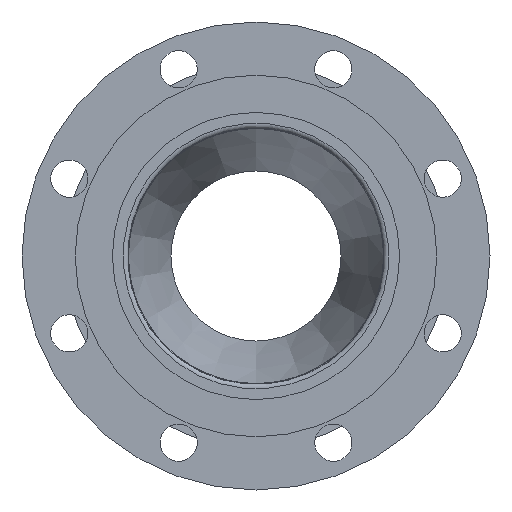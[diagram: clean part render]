
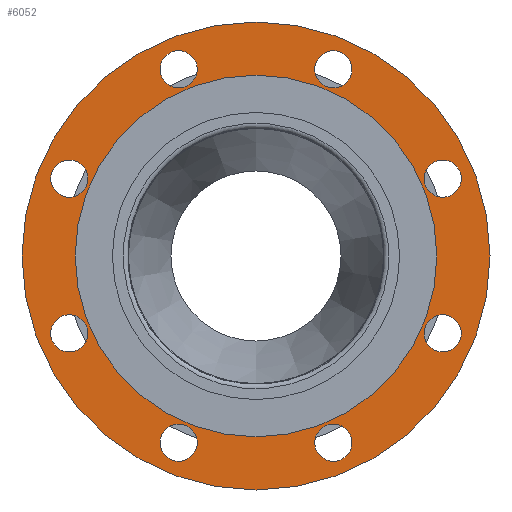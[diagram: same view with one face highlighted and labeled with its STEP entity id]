
A CAD part, front view. The second image highlights one B-rep face of the part: STEP entity #6052.
In plain terms, the highlighted planar face has unit normal (0, -1, 0) as drawn and (0, 1, 0) by its records, which use the part's own axes.
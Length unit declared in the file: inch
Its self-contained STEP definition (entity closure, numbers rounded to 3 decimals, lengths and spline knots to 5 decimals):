
#5713=CARTESIAN_POINT('',(-1.50839,0.6875,4.69779));
#5714=VERTEX_POINT('',#5713);
#5715=CARTESIAN_POINT('',(-1.81775,0.6875,4.38843));
#5716=DIRECTION('',(0.0,-1.0,0.0));
#5717=DIRECTION('',(0.707,0.0,0.707));
#5718=AXIS2_PLACEMENT_3D('',#5715,#5716,#5717);
#5719=CIRCLE('',#5718,0.4375);
#5720=EDGE_CURVE('',#5714,#5714,#5719,.T.);
#5741=CARTESIAN_POINT('',(-4.38843,0.6875,2.25525));
#5742=VERTEX_POINT('',#5741);
#5743=CARTESIAN_POINT('',(-4.38843,0.6875,1.81775));
#5744=DIRECTION('',(0.0,-1.0,0.0));
#5745=DIRECTION('',(0.0,0.0,1.0));
#5746=AXIS2_PLACEMENT_3D('',#5743,#5744,#5745);
#5747=CIRCLE('',#5746,0.4375);
#5748=EDGE_CURVE('',#5742,#5742,#5747,.T.);
#5769=CARTESIAN_POINT('',(-4.69779,0.6875,-1.50839));
#5770=VERTEX_POINT('',#5769);
#5771=CARTESIAN_POINT('',(-4.38843,0.6875,-1.81775));
#5772=DIRECTION('',(0.0,-1.0,0.0));
#5773=DIRECTION('',(-0.707,0.0,0.707));
#5774=AXIS2_PLACEMENT_3D('',#5771,#5772,#5773);
#5775=CIRCLE('',#5774,0.4375);
#5776=EDGE_CURVE('',#5770,#5770,#5775,.T.);
#5797=CARTESIAN_POINT('',(-2.25525,0.6875,-4.38843));
#5798=VERTEX_POINT('',#5797);
#5799=CARTESIAN_POINT('',(-1.81775,0.6875,-4.38843));
#5800=DIRECTION('',(0.0,-1.0,0.0));
#5801=DIRECTION('',(-1.0,0.0,0.0));
#5802=AXIS2_PLACEMENT_3D('',#5799,#5800,#5801);
#5803=CIRCLE('',#5802,0.4375);
#5804=EDGE_CURVE('',#5798,#5798,#5803,.T.);
#5825=CARTESIAN_POINT('',(1.50839,0.6875,-4.69779));
#5826=VERTEX_POINT('',#5825);
#5827=CARTESIAN_POINT('',(1.81775,0.6875,-4.38843));
#5828=DIRECTION('',(0.0,-1.0,0.0));
#5829=DIRECTION('',(-0.707,0.0,-0.707));
#5830=AXIS2_PLACEMENT_3D('',#5827,#5828,#5829);
#5831=CIRCLE('',#5830,0.4375);
#5832=EDGE_CURVE('',#5826,#5826,#5831,.T.);
#5853=CARTESIAN_POINT('',(4.38843,0.6875,-2.25525));
#5854=VERTEX_POINT('',#5853);
#5855=CARTESIAN_POINT('',(4.38843,0.6875,-1.81775));
#5856=DIRECTION('',(0.0,-1.0,0.0));
#5857=DIRECTION('',(0.0,0.0,-1.0));
#5858=AXIS2_PLACEMENT_3D('',#5855,#5856,#5857);
#5859=CIRCLE('',#5858,0.4375);
#5860=EDGE_CURVE('',#5854,#5854,#5859,.T.);
#5881=CARTESIAN_POINT('',(4.69779,0.6875,1.50839));
#5882=VERTEX_POINT('',#5881);
#5883=CARTESIAN_POINT('',(4.38843,0.6875,1.81775));
#5884=DIRECTION('',(0.0,-1.0,0.0));
#5885=DIRECTION('',(0.707,0.0,-0.707));
#5886=AXIS2_PLACEMENT_3D('',#5883,#5884,#5885);
#5887=CIRCLE('',#5886,0.4375);
#5888=EDGE_CURVE('',#5882,#5882,#5887,.T.);
#5909=CARTESIAN_POINT('',(2.25525,0.6875,4.38843));
#5910=VERTEX_POINT('',#5909);
#5911=CARTESIAN_POINT('',(1.81775,0.6875,4.38843));
#5912=DIRECTION('',(0.0,-1.0,0.0));
#5913=DIRECTION('',(1.0,0.0,0.0));
#5914=AXIS2_PLACEMENT_3D('',#5911,#5912,#5913);
#5915=CIRCLE('',#5914,0.4375);
#5916=EDGE_CURVE('',#5910,#5910,#5915,.T.);
#5937=CARTESIAN_POINT('',(4.25,0.6875,0.));
#5938=VERTEX_POINT('',#5937);
#5939=CARTESIAN_POINT('',(0.0,0.6875,0.0));
#5940=DIRECTION('',(0.0,-1.0,0.0));
#5941=DIRECTION('',(-1.0,0.0,0.0));
#5942=AXIS2_PLACEMENT_3D('',#5939,#5940,#5941);
#5943=CIRCLE('',#5942,4.25);
#5944=EDGE_CURVE('',#5938,#5938,#5943,.T.);
#5994=CARTESIAN_POINT('',(-5.5,0.6875,0.));
#5995=VERTEX_POINT('',#5994);
#5996=CARTESIAN_POINT('',(0.0,0.6875,0.0));
#5997=DIRECTION('',(0.0,-1.0,0.0));
#5998=DIRECTION('',(1.0,0.0,0.0));
#5999=AXIS2_PLACEMENT_3D('',#5996,#5997,#5998);
#6000=CIRCLE('',#5999,5.5);
#6001=EDGE_CURVE('',#5995,#5995,#6000,.T.);
#6017=CARTESIAN_POINT('',(0.0,0.6875,0.0));
#6018=DIRECTION('',(0.0,-1.0,0.0));
#6019=DIRECTION('',(0.0,0.0,-1.0));
#6020=AXIS2_PLACEMENT_3D('',#6017,#6018,#6019);
#6021=PLANE('',#6020);
#6022=ORIENTED_EDGE('',*,*,#6001,.F.);
#6023=EDGE_LOOP('',(#6022));
#6024=FACE_OUTER_BOUND('',#6023,.T.);
#6025=ORIENTED_EDGE('',*,*,#5720,.T.);
#6026=EDGE_LOOP('',(#6025));
#6027=FACE_BOUND('',#6026,.T.);
#6028=ORIENTED_EDGE('',*,*,#5748,.T.);
#6029=EDGE_LOOP('',(#6028));
#6030=FACE_BOUND('',#6029,.T.);
#6031=ORIENTED_EDGE('',*,*,#5776,.T.);
#6032=EDGE_LOOP('',(#6031));
#6033=FACE_BOUND('',#6032,.T.);
#6034=ORIENTED_EDGE('',*,*,#5804,.T.);
#6035=EDGE_LOOP('',(#6034));
#6036=FACE_BOUND('',#6035,.T.);
#6037=ORIENTED_EDGE('',*,*,#5832,.T.);
#6038=EDGE_LOOP('',(#6037));
#6039=FACE_BOUND('',#6038,.T.);
#6040=ORIENTED_EDGE('',*,*,#5860,.T.);
#6041=EDGE_LOOP('',(#6040));
#6042=FACE_BOUND('',#6041,.T.);
#6043=ORIENTED_EDGE('',*,*,#5888,.T.);
#6044=EDGE_LOOP('',(#6043));
#6045=FACE_BOUND('',#6044,.T.);
#6046=ORIENTED_EDGE('',*,*,#5916,.T.);
#6047=EDGE_LOOP('',(#6046));
#6048=FACE_BOUND('',#6047,.T.);
#6049=ORIENTED_EDGE('',*,*,#5944,.T.);
#6050=EDGE_LOOP('',(#6049));
#6051=FACE_BOUND('',#6050,.T.);
#6052=ADVANCED_FACE('',(#6024,#6027,#6030,#6033,#6036,#6039,#6042,#6045,#6048,#6051),#6021,.F.);
